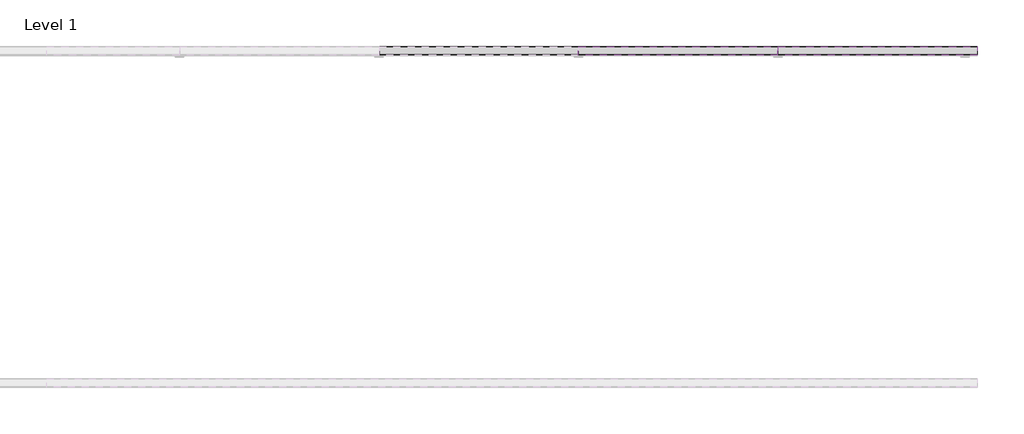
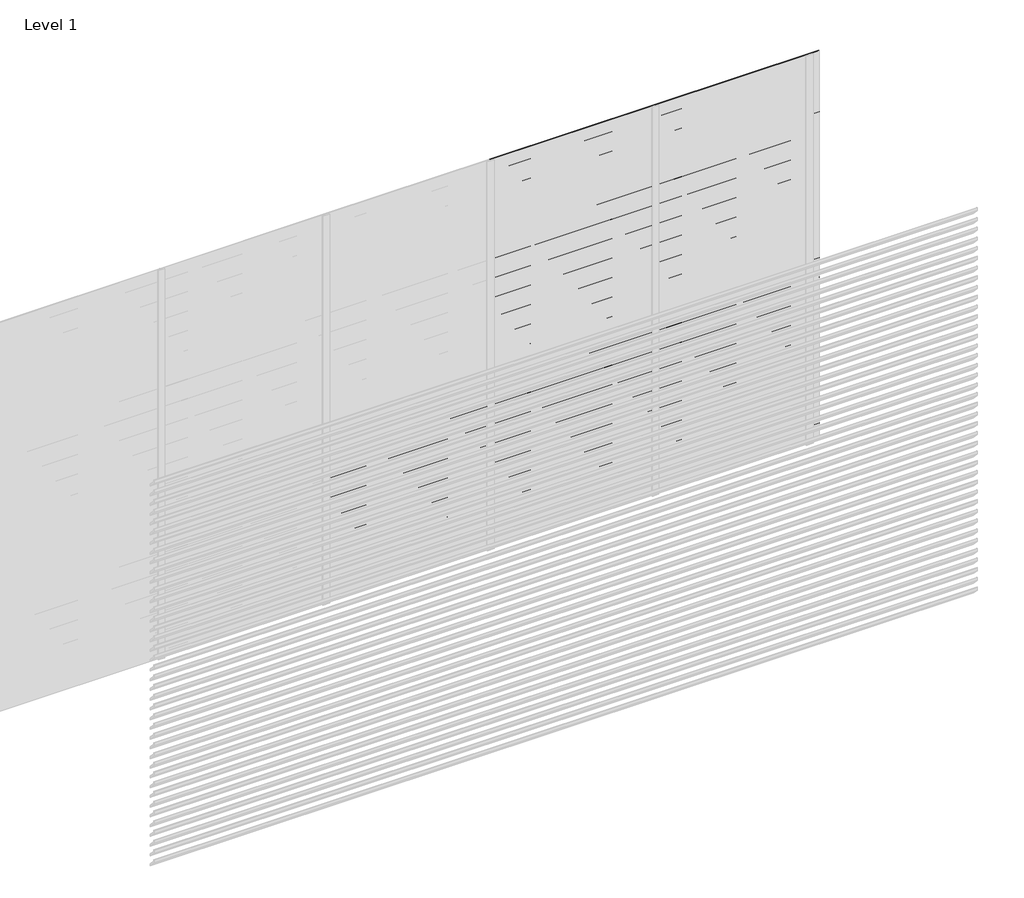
# One storey, part 11 of 11: 97 proxies.
"""IFC4 building model written with IfcOpenShell, lengths in millimetres."""

import ifcopenshell
import ifcopenshell.guid

model = None  # the IFC model being written
_history = None  # IfcOwnerHistory: only IFC2X3 demands one
_inside = {}  # id of a spatial element -> (the spatial element, [elements in it])
_under = {}  # id of a project, library or spatial element -> (it, [spatial elements below it])
_declared = {}  # id of a project -> (the project, [libraries it declares])
_typed = {}  # id of a type object -> (the type object, [elements of that type])
_made_of = {}  # id of a material, layer set ... -> (it, [elements and type objects made of it])


def new_model(schema):
    """Start an empty IFC model of exactly this schema.

    Asked for "IFC4X3", IfcOpenShell would pick the latest addendum, in which some entities
    have other attributes; the version numbers below select the first issue.
    IFC2X3 requires an IfcOwnerHistory on every rooted entity: one is made here for all.
    """
    global model, _history
    if schema == "IFC4X3":
        model = ifcopenshell.file(schema_version=(4, 3, 0, 0))
    else:
        model = ifcopenshell.file(schema=schema)
    _inside.clear()
    _under.clear()
    _declared.clear()
    _typed.clear()
    _made_of.clear()
    _history = None
    if model.schema == "IFC2X3":
        org = make("IfcOrganization", Name="unknown")
        user = make(
            "IfcPersonAndOrganization",
            ThePerson=make("IfcPerson", FamilyName="unknown"),
            TheOrganization=org,
        )
        app = make(
            "IfcApplication",
            ApplicationDeveloper=org,
            Version="unknown",
            ApplicationFullName="unknown",
            ApplicationIdentifier="unknown",
        )
        _history = make(
            "IfcOwnerHistory",
            OwningUser=user,
            OwningApplication=app,
            ChangeAction="ADDED",
            CreationDate=0,
        )
    return model


def make(cls, **values):
    """One entity of the class cls with the attributes given. An attribute that is None is left unset."""
    return model.create_entity(
        cls, **{name: value for name, value in values.items() if value is not None}
    )


def rooted(cls, **values):
    """An entity with a GlobalId (a new one), such as an element, a storey or a relation."""
    return make(cls, GlobalId=ifcopenshell.guid.new(), OwnerHistory=_history, **values)


def si_unit(unit_type, name, prefix=None):
    """IfcSIUnit, for example si_unit("LENGTHUNIT", "METRE", prefix="MILLI")."""
    return make("IfcSIUnit", UnitType=unit_type, Prefix=prefix, Name=name)


def assignment(units):
    """IfcUnitAssignment: the units of a project."""
    return None if units is None else make("IfcUnitAssignment", Units=units)


def point(xyz):
    """IfcCartesianPoint."""
    return None if xyz is None else make("IfcCartesianPoint", Coordinates=xyz)


def direction(xyz):
    """IfcDirection."""
    return None if xyz is None else make("IfcDirection", DirectionRatios=xyz)


def frame(location, z_axis=None, x_axis=None):
    """IfcAxis2Placement3D, a coordinate frame: its origin and axes. An axis left out is left unset."""
    return make(
        "IfcAxis2Placement3D",
        Location=point(location),
        Axis=direction(z_axis),
        RefDirection=direction(x_axis),
    )


def origin():
    """The frame at (0, 0, 0) with its axes left unset."""
    return frame((0.0, 0.0, 0.0))


def place(relative_to, where):
    """IfcLocalPlacement: puts the frame where relative to a parent placement (None: the world)."""
    return make(
        "IfcLocalPlacement", PlacementRelTo=relative_to, RelativePlacement=where
    )


def context(
    kind, dimensions, precision=None, world=None, true_north=None, identifier=None
):
    """IfcGeometricRepresentationContext, for example the 3D "Model" context."""
    return make(
        "IfcGeometricRepresentationContext",
        ContextIdentifier=identifier,
        ContextType=kind,
        CoordinateSpaceDimension=dimensions,
        Precision=precision,
        WorldCoordinateSystem=world,
        TrueNorth=true_north,
    )


def project(units=None, contexts=None):
    """IfcProject with its units and contexts."""
    return rooted(
        "IfcProject",
        Name="project",
        RepresentationContexts=contexts,
        UnitsInContext=assignment(units),
    )


def spatial(cls, under=None, at=None, **own):
    """A site, building, storey or space (cls), placed at a placement, below another one or the project."""
    s = rooted(cls, ObjectPlacement=at, **own)
    if under is not None:
        _under.setdefault(under.id(), (under, []))[1].append(s)
    return s


def polyline(points):
    """IfcPolyline through the points."""
    return make("IfcPolyline", Points=[point(p) for p in points])


def outline(outer, holes=None, kind="AREA"):
    """IfcArbitraryClosedProfileDef: a profile drawn as a closed curve; with holes, ...WithVoids."""
    if holes is None:
        return make("IfcArbitraryClosedProfileDef", ProfileType=kind, OuterCurve=outer)
    return make(
        "IfcArbitraryProfileDefWithVoids",
        ProfileType=kind,
        OuterCurve=outer,
        InnerCurves=holes,
    )


def extrude(swept, where, along, depth):
    """IfcExtrudedAreaSolid: the profile swept, set in the frame where, extruded along a direction by depth."""
    return make(
        "IfcExtrudedAreaSolid",
        SweptArea=swept,
        Position=where,
        ExtrudedDirection=direction(along),
        Depth=depth,
    )


def shape(context_of_items, identifier, shape_type, items):
    """IfcShapeRepresentation: the items that make up one representation, for example the "Body"."""
    return make(
        "IfcShapeRepresentation",
        ContextOfItems=context_of_items,
        RepresentationIdentifier=identifier,
        RepresentationType=shape_type,
        Items=items,
    )


def made_of(thing, what):
    """Note that an element or type object is made of a material, layer set ...; save() writes the relation."""
    if what is not None:
        _made_of.setdefault(what.id(), (what, []))[1].append(thing)
    return thing


def element(
    cls,
    number,
    at=None,
    inside=None,
    cuts=None,
    type_object=None,
    material=None,
    context=None,
    identifier="Body",
    shape_type=None,
    held_by="IfcProductDefinitionShape",
    body=None,
    shapes=None,
    **own,
):
    """One element of the class cls, such as IfcWall. Its Tag is "e" and its number.

    at: its placement. inside: the storey or other place that contains it. cuts: it is an
    opening in that element (IfcRelVoidsElement). A single representation is given by context,
    identifier, shape_type and body (its items); several are given by shapes. held_by: the class
    of the entity that holds the representations. save() writes the other relations.
    """
    e = rooted(cls, Tag="e%d" % number, ObjectPlacement=at, **own)
    if body is not None:
        shapes = [shape(context, identifier, shape_type, body)]
    if shapes is not None:
        e.Representation = make(held_by, Representations=shapes)
    if inside is not None:
        _inside.setdefault(inside.id(), (inside, []))[1].append(e)
    if cuts is not None:
        rooted(
            "IfcRelVoidsElement", RelatingBuildingElement=cuts, RelatedOpeningElement=e
        )
    if type_object is not None:
        _typed.setdefault(type_object.id(), (type_object, []))[1].append(e)
    return made_of(e, material)


def aggregate(whole, parts):
    """IfcRelAggregates: a whole, such as a stair, and the parts it consists of."""
    return rooted("IfcRelAggregates", RelatingObject=whole, RelatedObjects=parts)


def save(model, path):
    """Write the relations noted so far, then the file.

    IfcRelAggregates (storeys below a building ...), IfcRelContainedInSpatialStructure (elements
    in a storey), IfcRelDefinesByType, IfcRelAssociatesMaterial and IfcRelDeclares: one each for
    every whole, place, type object, material and project.
    """
    for whole, parts in _under.values():
        aggregate(whole, parts)
    for where, things in _inside.values():
        rooted(
            "IfcRelContainedInSpatialStructure",
            RelatedElements=things,
            RelatingStructure=where,
        )
    for kind, things in _typed.values():
        rooted("IfcRelDefinesByType", RelatedObjects=things, RelatingType=kind)
    for what, things in _made_of.values():
        rooted("IfcRelAssociatesMaterial", RelatedObjects=things, RelatingMaterial=what)
    for by, libraries in _declared.values():
        rooted("IfcRelDeclares", RelatingContext=by, RelatedDefinitions=libraries)
    model.write(path)


model = new_model("IFC4")

# Units and contexts
model_context = context("Model", 3, world=origin())
ifc_project = project(units=[si_unit("LENGTHUNIT", "METRE", prefix="MILLI")], contexts=[model_context])

# Site, building, storey
site = spatial("IfcSite", under=ifc_project)
building = spatial("IfcBuilding", under=site)
storey = spatial("IfcBuildingStorey", under=building, Name="Level 1", Elevation=0.0)

# Proxies
placement = place(None, origin())
element("IfcBuildingElementProxy", 1, Name="Wall Sweeps", at=placement, inside=storey, context=model_context, shape_type="SweptSolid", body=[
    extrude(outline(polyline([(5.0, 1275.0), (5.0, 1265.7409854), (54.0, 1215.0), (54.0, 1199.0), (3.0, 1251.812046), (3.0, 1275.0), (5.0, 1275.0)])), frame((2400.0, 0.0, 0.0), z_axis=(1.0, 0.0, 0.0), x_axis=(0.0, 1.0, 0.0)), (0.0, 0.0, 1.0), 1200.0),
])
element("IfcBuildingElementProxy", 2, Name="Wall Sweeps", at=placement, inside=storey, context=model_context, shape_type="SweptSolid", body=[
    extrude(outline(polyline([(5.0, 1200.0), (5.0, 1190.7409854), (54.0, 1140.0), (54.0, 1124.0), (3.0, 1176.812046), (3.0, 1200.0), (5.0, 1200.0)])), frame((2400.0, 0.0, 0.0), z_axis=(1.0, 0.0, 0.0), x_axis=(0.0, 1.0, 0.0)), (0.0, 0.0, 1.0), 1200.0),
])
element("IfcBuildingElementProxy", 3, Name="Wall Sweeps", at=placement, inside=storey, context=model_context, shape_type="SweptSolid", body=[
    extrude(outline(polyline([(5.0, 1125.0), (5.0, 1115.7409854), (54.0, 1065.0), (54.0, 1049.0), (3.0, 1101.812046), (3.0, 1125.0), (5.0, 1125.0)])), frame((2400.0, 0.0, 0.0), z_axis=(1.0, 0.0, 0.0), x_axis=(0.0, 1.0, 0.0)), (0.0, 0.0, 1.0), 1200.0),
])
element("IfcBuildingElementProxy", 4, Name="Wall Sweeps", at=placement, inside=storey, context=model_context, shape_type="SweptSolid", body=[
    extrude(outline(polyline([(5.0, 1050.0), (5.0, 1040.7409854), (54.0, 990.0), (54.0, 974.0), (3.0, 1026.812046), (3.0, 1050.0), (5.0, 1050.0)])), frame((2400.0, 0.0, 0.0), z_axis=(1.0, 0.0, 0.0), x_axis=(0.0, 1.0, 0.0)), (0.0, 0.0, 1.0), 1200.0),
])
element("IfcBuildingElementProxy", 5, Name="Wall Sweeps", at=placement, inside=storey, context=model_context, shape_type="SweptSolid", body=[
    extrude(outline(polyline([(5.0, 975.0), (5.0, 965.7409854), (54.0, 915.0), (54.0, 899.0), (3.0, 951.812046), (3.0, 975.0), (5.0, 975.0)])), frame((2400.0, 0.0, 0.0), z_axis=(1.0, 0.0, 0.0), x_axis=(0.0, 1.0, 0.0)), (0.0, 0.0, 1.0), 1200.0),
])
element("IfcBuildingElementProxy", 6, Name="Wall Sweeps", at=placement, inside=storey, context=model_context, shape_type="SweptSolid", body=[
    extrude(outline(polyline([(5.0, 900.0), (5.0, 890.7409854), (54.0, 840.0), (54.0, 824.0), (3.0, 876.812046), (3.0, 900.0), (5.0, 900.0)])), frame((2400.0, 0.0, 0.0), z_axis=(1.0, 0.0, 0.0), x_axis=(0.0, 1.0, 0.0)), (0.0, 0.0, 1.0), 1200.0),
])
element("IfcBuildingElementProxy", 7, Name="Wall Sweeps", at=placement, inside=storey, context=model_context, shape_type="SweptSolid", body=[
    extrude(outline(polyline([(5.0, 825.0), (5.0, 815.7409854), (54.0, 765.0), (54.0, 749.0), (3.0, 801.812046), (3.0, 825.0), (5.0, 825.0)])), frame((2400.0, 0.0, 0.0), z_axis=(1.0, 0.0, 0.0), x_axis=(0.0, 1.0, 0.0)), (0.0, 0.0, 1.0), 1200.0),
])
element("IfcBuildingElementProxy", 8, Name="Wall Sweeps", at=placement, inside=storey, context=model_context, shape_type="SweptSolid", body=[
    extrude(outline(polyline([(5.0, 750.0), (5.0, 740.7409854), (54.0, 690.0), (54.0, 674.0), (3.0, 726.812046), (3.0, 750.0), (5.0, 750.0)])), frame((2400.0, 0.0, 0.0), z_axis=(1.0, 0.0, 0.0), x_axis=(0.0, 1.0, 0.0)), (0.0, 0.0, 1.0), 1200.0),
])
element("IfcBuildingElementProxy", 9, Name="Wall Sweeps", at=placement, inside=storey, context=model_context, shape_type="SweptSolid", body=[
    extrude(outline(polyline([(5.0, 675.0), (5.0, 665.7409854), (54.0, 615.0), (54.0, 599.0), (3.0, 651.812046), (3.0, 675.0), (5.0, 675.0)])), frame((2400.0, 0.0, 0.0), z_axis=(1.0, 0.0, 0.0), x_axis=(0.0, 1.0, 0.0)), (0.0, 0.0, 1.0), 1200.0),
])
element("IfcBuildingElementProxy", 10, Name="Wall Sweeps", at=placement, inside=storey, context=model_context, shape_type="SweptSolid", body=[
    extrude(outline(polyline([(5.0, 600.0), (5.0, 590.7409854), (54.0, 540.0), (54.0, 524.0), (3.0, 576.812046), (3.0, 600.0), (5.0, 600.0)])), frame((2400.0, 0.0, 0.0), z_axis=(1.0, 0.0, 0.0), x_axis=(0.0, 1.0, 0.0)), (0.0, 0.0, 1.0), 1200.0),
])
element("IfcBuildingElementProxy", 11, Name="Wall Sweeps", at=placement, inside=storey, context=model_context, shape_type="SweptSolid", body=[
    extrude(outline(polyline([(5.0, 525.0), (5.0, 515.7409854), (54.0, 465.0), (54.0, 449.0), (3.0, 501.812046), (3.0, 525.0), (5.0, 525.0)])), frame((2400.0, 0.0, 0.0), z_axis=(1.0, 0.0, 0.0), x_axis=(0.0, 1.0, 0.0)), (0.0, 0.0, 1.0), 1200.0),
])
element("IfcBuildingElementProxy", 12, Name="Wall Sweeps", at=placement, inside=storey, context=model_context, shape_type="SweptSolid", body=[
    extrude(outline(polyline([(5.0, 450.0), (5.0, 440.7409854), (54.0, 390.0), (54.0, 374.0), (3.0, 426.812046), (3.0, 450.0), (5.0, 450.0)])), frame((2400.0, 0.0, 0.0), z_axis=(1.0, 0.0, 0.0), x_axis=(0.0, 1.0, 0.0)), (0.0, 0.0, 1.0), 1200.0),
])
element("IfcBuildingElementProxy", 13, Name="Wall Sweeps", at=placement, inside=storey, context=model_context, shape_type="SweptSolid", body=[
    extrude(outline(polyline([(5.0, 375.0), (5.0, 365.7409854), (54.0, 315.0), (54.0, 299.0), (3.0, 351.812046), (3.0, 375.0), (5.0, 375.0)])), frame((2400.0, 0.0, 0.0), z_axis=(1.0, 0.0, 0.0), x_axis=(0.0, 1.0, 0.0)), (0.0, 0.0, 1.0), 1200.0),
])
element("IfcBuildingElementProxy", 14, Name="Wall Sweeps", at=placement, inside=storey, context=model_context, shape_type="SweptSolid", body=[
    extrude(outline(polyline([(5.0, 300.0), (5.0, 290.7409854), (54.0, 240.0), (54.0, 224.0), (3.0, 276.812046), (3.0, 300.0), (5.0, 300.0)])), frame((2400.0, 0.0, 0.0), z_axis=(1.0, 0.0, 0.0), x_axis=(0.0, 1.0, 0.0)), (0.0, 0.0, 1.0), 1200.0),
])
element("IfcBuildingElementProxy", 15, Name="Wall Sweeps", at=placement, inside=storey, context=model_context, shape_type="SweptSolid", body=[
    extrude(outline(polyline([(5.0, 225.0), (5.0, 215.7409854), (54.0, 165.0), (54.0, 149.0), (3.0, 201.812046), (3.0, 225.0), (5.0, 225.0)])), frame((2400.0, 0.0, 0.0), z_axis=(1.0, 0.0, 0.0), x_axis=(0.0, 1.0, 0.0)), (0.0, 0.0, 1.0), 1200.0),
])
element("IfcBuildingElementProxy", 16, Name="Wall Sweeps", at=placement, inside=storey, context=model_context, shape_type="SweptSolid", body=[
    extrude(outline(polyline([(5.0, 150.0), (5.0, 140.7409854), (54.0, 90.0), (54.0, 74.0), (3.0, 126.812046), (3.0, 150.0), (5.0, 150.0)])), frame((2400.0, 0.0, 0.0), z_axis=(1.0, 0.0, 0.0), x_axis=(0.0, 1.0, 0.0)), (0.0, 0.0, 1.0), 1200.0),
])
element("IfcBuildingElementProxy", 17, Name="Wall Sweeps", at=placement, inside=storey, context=model_context, shape_type="SweptSolid", body=[
    extrude(outline(polyline([(5.0, 75.0), (5.0, 65.7409854), (54.0, 15.0), (54.0, -1.0), (3.0, 51.812046), (3.0, 75.0), (5.0, 75.0)])), frame((2400.0, 0.0, 0.0), z_axis=(1.0, 0.0, 0.0), x_axis=(0.0, 1.0, 0.0)), (0.0, 0.0, 1.0), 1200.0),
])
element("IfcBuildingElementProxy", 18, Name="Wall Sweeps", at=placement, inside=storey, context=model_context, shape_type="SweptSolid", body=[
    extrude(outline(polyline([(5.0, 3000.0), (5.0, 2990.7409854), (54.0, 2940.0), (54.0, 2924.0), (3.0, 2976.812046), (3.0, 3000.0), (5.0, 3000.0)])), frame((3600.0, 0.0, 0.0), z_axis=(1.0, 0.0, 0.0), x_axis=(0.0, 1.0, 0.0)), (0.0, 0.0, 1.0), 1200.0),
])
element("IfcBuildingElementProxy", 19, Name="Wall Sweeps", at=placement, inside=storey, context=model_context, shape_type="SweptSolid", body=[
    extrude(outline(polyline([(5.0, 2925.0), (5.0, 2915.7409854), (54.0, 2865.0), (54.0, 2849.0), (3.0, 2901.812046), (3.0, 2925.0), (5.0, 2925.0)])), frame((3600.0, 0.0, 0.0), z_axis=(1.0, 0.0, 0.0), x_axis=(0.0, 1.0, 0.0)), (0.0, 0.0, 1.0), 1200.0),
])
element("IfcBuildingElementProxy", 20, Name="Wall Sweeps", at=placement, inside=storey, context=model_context, shape_type="SweptSolid", body=[
    extrude(outline(polyline([(5.0, 2850.0), (5.0, 2840.7409854), (54.0, 2790.0), (54.0, 2774.0), (3.0, 2826.812046), (3.0, 2850.0), (5.0, 2850.0)])), frame((3600.0, 0.0, 0.0), z_axis=(1.0, 0.0, 0.0), x_axis=(0.0, 1.0, 0.0)), (0.0, 0.0, 1.0), 1200.0),
])
element("IfcBuildingElementProxy", 21, Name="Wall Sweeps", at=placement, inside=storey, context=model_context, shape_type="SweptSolid", body=[
    extrude(outline(polyline([(5.0, 2775.0), (5.0, 2765.7409854), (54.0, 2715.0), (54.0, 2699.0), (3.0, 2751.812046), (3.0, 2775.0), (5.0, 2775.0)])), frame((3600.0, 0.0, 0.0), z_axis=(1.0, 0.0, 0.0), x_axis=(0.0, 1.0, 0.0)), (0.0, 0.0, 1.0), 1200.0),
])
element("IfcBuildingElementProxy", 22, Name="Wall Sweeps", at=placement, inside=storey, context=model_context, shape_type="SweptSolid", body=[
    extrude(outline(polyline([(5.0, 2700.0), (5.0, 2690.7409854), (54.0, 2640.0), (54.0, 2624.0), (3.0, 2676.812046), (3.0, 2700.0), (5.0, 2700.0)])), frame((3600.0, 0.0, 0.0), z_axis=(1.0, 0.0, 0.0), x_axis=(0.0, 1.0, 0.0)), (0.0, 0.0, 1.0), 1200.0),
])
element("IfcBuildingElementProxy", 23, Name="Wall Sweeps", at=placement, inside=storey, context=model_context, shape_type="SweptSolid", body=[
    extrude(outline(polyline([(5.0, 2625.0), (5.0, 2615.7409854), (54.0, 2565.0), (54.0, 2549.0), (3.0, 2601.812046), (3.0, 2625.0), (5.0, 2625.0)])), frame((3600.0, 0.0, 0.0), z_axis=(1.0, 0.0, 0.0), x_axis=(0.0, 1.0, 0.0)), (0.0, 0.0, 1.0), 1200.0),
])
element("IfcBuildingElementProxy", 24, Name="Wall Sweeps", at=placement, inside=storey, context=model_context, shape_type="SweptSolid", body=[
    extrude(outline(polyline([(5.0, 2550.0), (5.0, 2540.7409854), (54.0, 2490.0), (54.0, 2474.0), (3.0, 2526.812046), (3.0, 2550.0), (5.0, 2550.0)])), frame((3600.0, 0.0, 0.0), z_axis=(1.0, 0.0, 0.0), x_axis=(0.0, 1.0, 0.0)), (0.0, 0.0, 1.0), 1200.0),
])
element("IfcBuildingElementProxy", 25, Name="Wall Sweeps", at=placement, inside=storey, context=model_context, shape_type="SweptSolid", body=[
    extrude(outline(polyline([(5.0, 2475.0), (5.0, 2465.7409854), (54.0, 2415.0), (54.0, 2399.0), (3.0, 2451.812046), (3.0, 2475.0), (5.0, 2475.0)])), frame((3600.0, 0.0, 0.0), z_axis=(1.0, 0.0, 0.0), x_axis=(0.0, 1.0, 0.0)), (0.0, 0.0, 1.0), 1200.0),
])
element("IfcBuildingElementProxy", 26, Name="Wall Sweeps", at=placement, inside=storey, context=model_context, shape_type="SweptSolid", body=[
    extrude(outline(polyline([(5.0, 2400.0), (5.0, 2390.7409854), (54.0, 2340.0), (54.0, 2324.0), (3.0, 2376.812046), (3.0, 2400.0), (5.0, 2400.0)])), frame((3600.0, 0.0, 0.0), z_axis=(1.0, 0.0, 0.0), x_axis=(0.0, 1.0, 0.0)), (0.0, 0.0, 1.0), 1200.0),
])
element("IfcBuildingElementProxy", 27, Name="Wall Sweeps", at=placement, inside=storey, context=model_context, shape_type="SweptSolid", body=[
    extrude(outline(polyline([(5.0, 2325.0), (5.0, 2315.7409854), (54.0, 2265.0), (54.0, 2249.0), (3.0, 2301.812046), (3.0, 2325.0), (5.0, 2325.0)])), frame((3600.0, 0.0, 0.0), z_axis=(1.0, 0.0, 0.0), x_axis=(0.0, 1.0, 0.0)), (0.0, 0.0, 1.0), 1200.0),
])
element("IfcBuildingElementProxy", 28, Name="Wall Sweeps", at=placement, inside=storey, context=model_context, shape_type="SweptSolid", body=[
    extrude(outline(polyline([(5.0, 2250.0), (5.0, 2240.7409854), (54.0, 2190.0), (54.0, 2174.0), (3.0, 2226.812046), (3.0, 2250.0), (5.0, 2250.0)])), frame((3600.0, 0.0, 0.0), z_axis=(1.0, 0.0, 0.0), x_axis=(0.0, 1.0, 0.0)), (0.0, 0.0, 1.0), 1200.0),
])
element("IfcBuildingElementProxy", 29, Name="Wall Sweeps", at=placement, inside=storey, context=model_context, shape_type="SweptSolid", body=[
    extrude(outline(polyline([(5.0, 2175.0), (5.0, 2165.7409854), (54.0, 2115.0), (54.0, 2099.0), (3.0, 2151.812046), (3.0, 2175.0), (5.0, 2175.0)])), frame((3600.0, 0.0, 0.0), z_axis=(1.0, 0.0, 0.0), x_axis=(0.0, 1.0, 0.0)), (0.0, 0.0, 1.0), 1200.0),
])
element("IfcBuildingElementProxy", 30, Name="Wall Sweeps", at=placement, inside=storey, context=model_context, shape_type="SweptSolid", body=[
    extrude(outline(polyline([(5.0, 2100.0), (5.0, 2090.7409854), (54.0, 2040.0), (54.0, 2024.0), (3.0, 2076.812046), (3.0, 2100.0), (5.0, 2100.0)])), frame((3600.0, 0.0, 0.0), z_axis=(1.0, 0.0, 0.0), x_axis=(0.0, 1.0, 0.0)), (0.0, 0.0, 1.0), 1200.0),
])
element("IfcBuildingElementProxy", 31, Name="Wall Sweeps", at=placement, inside=storey, context=model_context, shape_type="SweptSolid", body=[
    extrude(outline(polyline([(5.0, 2025.0), (5.0, 2015.7409854), (54.0, 1965.0), (54.0, 1949.0), (3.0, 2001.812046), (3.0, 2025.0), (5.0, 2025.0)])), frame((3600.0, 0.0, 0.0), z_axis=(1.0, 0.0, 0.0), x_axis=(0.0, 1.0, 0.0)), (0.0, 0.0, 1.0), 1200.0),
])
element("IfcBuildingElementProxy", 32, Name="Wall Sweeps", at=placement, inside=storey, context=model_context, shape_type="SweptSolid", body=[
    extrude(outline(polyline([(5.0, 1950.0), (5.0, 1940.7409854), (54.0, 1890.0), (54.0, 1874.0), (3.0, 1926.812046), (3.0, 1950.0), (5.0, 1950.0)])), frame((3600.0, 0.0, 0.0), z_axis=(1.0, 0.0, 0.0), x_axis=(0.0, 1.0, 0.0)), (0.0, 0.0, 1.0), 1200.0),
])
element("IfcBuildingElementProxy", 33, Name="Wall Sweeps", at=placement, inside=storey, context=model_context, shape_type="SweptSolid", body=[
    extrude(outline(polyline([(5.0, 1875.0), (5.0, 1865.7409854), (54.0, 1815.0), (54.0, 1799.0), (3.0, 1851.812046), (3.0, 1875.0), (5.0, 1875.0)])), frame((3600.0, 0.0, 0.0), z_axis=(1.0, 0.0, 0.0), x_axis=(0.0, 1.0, 0.0)), (0.0, 0.0, 1.0), 1200.0),
])
element("IfcBuildingElementProxy", 34, Name="Wall Sweeps", at=placement, inside=storey, context=model_context, shape_type="SweptSolid", body=[
    extrude(outline(polyline([(5.0, 1800.0), (5.0, 1790.7409854), (54.0, 1740.0), (54.0, 1724.0), (3.0, 1776.812046), (3.0, 1800.0), (5.0, 1800.0)])), frame((3600.0, 0.0, 0.0), z_axis=(1.0, 0.0, 0.0), x_axis=(0.0, 1.0, 0.0)), (0.0, 0.0, 1.0), 1200.0),
])
element("IfcBuildingElementProxy", 35, Name="Wall Sweeps", at=placement, inside=storey, context=model_context, shape_type="SweptSolid", body=[
    extrude(outline(polyline([(5.0, 1725.0), (5.0, 1715.7409854), (54.0, 1665.0), (54.0, 1649.0), (3.0, 1701.812046), (3.0, 1725.0), (5.0, 1725.0)])), frame((3600.0, 0.0, 0.0), z_axis=(1.0, 0.0, 0.0), x_axis=(0.0, 1.0, 0.0)), (0.0, 0.0, 1.0), 1200.0),
])
element("IfcBuildingElementProxy", 36, Name="Wall Sweeps", at=placement, inside=storey, context=model_context, shape_type="SweptSolid", body=[
    extrude(outline(polyline([(5.0, 1650.0), (5.0, 1640.7409854), (54.0, 1590.0), (54.0, 1574.0), (3.0, 1626.812046), (3.0, 1650.0), (5.0, 1650.0)])), frame((3600.0, 0.0, 0.0), z_axis=(1.0, 0.0, 0.0), x_axis=(0.0, 1.0, 0.0)), (0.0, 0.0, 1.0), 1200.0),
])
element("IfcBuildingElementProxy", 37, Name="Wall Sweeps", at=placement, inside=storey, context=model_context, shape_type="SweptSolid", body=[
    extrude(outline(polyline([(5.0, 1575.0), (5.0, 1565.7409854), (54.0, 1515.0), (54.0, 1499.0), (3.0, 1551.812046), (3.0, 1575.0), (5.0, 1575.0)])), frame((3600.0, 0.0, 0.0), z_axis=(1.0, 0.0, 0.0), x_axis=(0.0, 1.0, 0.0)), (0.0, 0.0, 1.0), 1200.0),
])
element("IfcBuildingElementProxy", 38, Name="Wall Sweeps", at=placement, inside=storey, context=model_context, shape_type="SweptSolid", body=[
    extrude(outline(polyline([(5.0, 1500.0), (5.0, 1490.7409854), (54.0, 1440.0), (54.0, 1424.0), (3.0, 1476.812046), (3.0, 1500.0), (5.0, 1500.0)])), frame((3600.0, 0.0, 0.0), z_axis=(1.0, 0.0, 0.0), x_axis=(0.0, 1.0, 0.0)), (0.0, 0.0, 1.0), 1200.0),
])
element("IfcBuildingElementProxy", 39, Name="Wall Sweeps", at=placement, inside=storey, context=model_context, shape_type="SweptSolid", body=[
    extrude(outline(polyline([(5.0, 1425.0), (5.0, 1415.7409854), (54.0, 1365.0), (54.0, 1349.0), (3.0, 1401.812046), (3.0, 1425.0), (5.0, 1425.0)])), frame((3600.0, 0.0, 0.0), z_axis=(1.0, 0.0, 0.0), x_axis=(0.0, 1.0, 0.0)), (0.0, 0.0, 1.0), 1200.0),
])
element("IfcBuildingElementProxy", 40, Name="Wall Sweeps", at=placement, inside=storey, context=model_context, shape_type="SweptSolid", body=[
    extrude(outline(polyline([(5.0, 1350.0), (5.0, 1340.7409854), (54.0, 1290.0), (54.0, 1274.0), (3.0, 1326.812046), (3.0, 1350.0), (5.0, 1350.0)])), frame((3600.0, 0.0, 0.0), z_axis=(1.0, 0.0, 0.0), x_axis=(0.0, 1.0, 0.0)), (0.0, 0.0, 1.0), 1200.0),
])
element("IfcBuildingElementProxy", 41, Name="Wall Sweeps", at=placement, inside=storey, context=model_context, shape_type="SweptSolid", body=[
    extrude(outline(polyline([(5.0, 1275.0), (5.0, 1265.7409854), (54.0, 1215.0), (54.0, 1199.0), (3.0, 1251.812046), (3.0, 1275.0), (5.0, 1275.0)])), frame((3600.0, 0.0, 0.0), z_axis=(1.0, 0.0, 0.0), x_axis=(0.0, 1.0, 0.0)), (0.0, 0.0, 1.0), 1200.0),
])
element("IfcBuildingElementProxy", 42, Name="Wall Sweeps", at=placement, inside=storey, context=model_context, shape_type="SweptSolid", body=[
    extrude(outline(polyline([(5.0, 1200.0), (5.0, 1190.7409854), (54.0, 1140.0), (54.0, 1124.0), (3.0, 1176.812046), (3.0, 1200.0), (5.0, 1200.0)])), frame((3600.0, 0.0, 0.0), z_axis=(1.0, 0.0, 0.0), x_axis=(0.0, 1.0, 0.0)), (0.0, 0.0, 1.0), 1200.0),
])
element("IfcBuildingElementProxy", 43, Name="Wall Sweeps", at=placement, inside=storey, context=model_context, shape_type="SweptSolid", body=[
    extrude(outline(polyline([(5.0, 1125.0), (5.0, 1115.7409854), (54.0, 1065.0), (54.0, 1049.0), (3.0, 1101.812046), (3.0, 1125.0), (5.0, 1125.0)])), frame((3600.0, 0.0, 0.0), z_axis=(1.0, 0.0, 0.0), x_axis=(0.0, 1.0, 0.0)), (0.0, 0.0, 1.0), 1200.0),
])
element("IfcBuildingElementProxy", 44, Name="Wall Sweeps", at=placement, inside=storey, context=model_context, shape_type="SweptSolid", body=[
    extrude(outline(polyline([(5.0, 1050.0), (5.0, 1040.7409854), (54.0, 990.0), (54.0, 974.0), (3.0, 1026.812046), (3.0, 1050.0), (5.0, 1050.0)])), frame((3600.0, 0.0, 0.0), z_axis=(1.0, 0.0, 0.0), x_axis=(0.0, 1.0, 0.0)), (0.0, 0.0, 1.0), 1200.0),
])
element("IfcBuildingElementProxy", 45, Name="Wall Sweeps", at=placement, inside=storey, context=model_context, shape_type="SweptSolid", body=[
    extrude(outline(polyline([(5.0, 975.0), (5.0, 965.7409854), (54.0, 915.0), (54.0, 899.0), (3.0, 951.812046), (3.0, 975.0), (5.0, 975.0)])), frame((3600.0, 0.0, 0.0), z_axis=(1.0, 0.0, 0.0), x_axis=(0.0, 1.0, 0.0)), (0.0, 0.0, 1.0), 1200.0),
])
element("IfcBuildingElementProxy", 46, Name="Wall Sweeps", at=placement, inside=storey, context=model_context, shape_type="SweptSolid", body=[
    extrude(outline(polyline([(5.0, 900.0), (5.0, 890.7409854), (54.0, 840.0), (54.0, 824.0), (3.0, 876.812046), (3.0, 900.0), (5.0, 900.0)])), frame((3600.0, 0.0, 0.0), z_axis=(1.0, 0.0, 0.0), x_axis=(0.0, 1.0, 0.0)), (0.0, 0.0, 1.0), 1200.0),
])
element("IfcBuildingElementProxy", 47, Name="Wall Sweeps", at=placement, inside=storey, context=model_context, shape_type="SweptSolid", body=[
    extrude(outline(polyline([(5.0, 825.0), (5.0, 815.7409854), (54.0, 765.0), (54.0, 749.0), (3.0, 801.812046), (3.0, 825.0), (5.0, 825.0)])), frame((3600.0, 0.0, 0.0), z_axis=(1.0, 0.0, 0.0), x_axis=(0.0, 1.0, 0.0)), (0.0, 0.0, 1.0), 1200.0),
])
element("IfcBuildingElementProxy", 48, Name="Wall Sweeps", at=placement, inside=storey, context=model_context, shape_type="SweptSolid", body=[
    extrude(outline(polyline([(5.0, 750.0), (5.0, 740.7409854), (54.0, 690.0), (54.0, 674.0), (3.0, 726.812046), (3.0, 750.0), (5.0, 750.0)])), frame((3600.0, 0.0, 0.0), z_axis=(1.0, 0.0, 0.0), x_axis=(0.0, 1.0, 0.0)), (0.0, 0.0, 1.0), 1200.0),
])
element("IfcBuildingElementProxy", 49, Name="Wall Sweeps", at=placement, inside=storey, context=model_context, shape_type="SweptSolid", body=[
    extrude(outline(polyline([(5.0, 675.0), (5.0, 665.7409854), (54.0, 615.0), (54.0, 599.0), (3.0, 651.812046), (3.0, 675.0), (5.0, 675.0)])), frame((3600.0, 0.0, 0.0), z_axis=(1.0, 0.0, 0.0), x_axis=(0.0, 1.0, 0.0)), (0.0, 0.0, 1.0), 1200.0),
])
element("IfcBuildingElementProxy", 50, Name="Wall Sweeps", at=placement, inside=storey, context=model_context, shape_type="SweptSolid", body=[
    extrude(outline(polyline([(5.0, 600.0), (5.0, 590.7409854), (54.0, 540.0), (54.0, 524.0), (3.0, 576.812046), (3.0, 600.0), (5.0, 600.0)])), frame((3600.0, 0.0, 0.0), z_axis=(1.0, 0.0, 0.0), x_axis=(0.0, 1.0, 0.0)), (0.0, 0.0, 1.0), 1200.0),
])
element("IfcBuildingElementProxy", 51, Name="Wall Sweeps", at=placement, inside=storey, context=model_context, shape_type="SweptSolid", body=[
    extrude(outline(polyline([(5.0, 525.0), (5.0, 515.7409854), (54.0, 465.0), (54.0, 449.0), (3.0, 501.812046), (3.0, 525.0), (5.0, 525.0)])), frame((3600.0, 0.0, 0.0), z_axis=(1.0, 0.0, 0.0), x_axis=(0.0, 1.0, 0.0)), (0.0, 0.0, 1.0), 1200.0),
])
element("IfcBuildingElementProxy", 52, Name="Wall Sweeps", at=placement, inside=storey, context=model_context, shape_type="SweptSolid", body=[
    extrude(outline(polyline([(5.0, 450.0), (5.0, 440.7409854), (54.0, 390.0), (54.0, 374.0), (3.0, 426.812046), (3.0, 450.0), (5.0, 450.0)])), frame((3600.0, 0.0, 0.0), z_axis=(1.0, 0.0, 0.0), x_axis=(0.0, 1.0, 0.0)), (0.0, 0.0, 1.0), 1200.0),
])
element("IfcBuildingElementProxy", 53, Name="Wall Sweeps", at=placement, inside=storey, context=model_context, shape_type="SweptSolid", body=[
    extrude(outline(polyline([(5.0, 375.0), (5.0, 365.7409854), (54.0, 315.0), (54.0, 299.0), (3.0, 351.812046), (3.0, 375.0), (5.0, 375.0)])), frame((3600.0, 0.0, 0.0), z_axis=(1.0, 0.0, 0.0), x_axis=(0.0, 1.0, 0.0)), (0.0, 0.0, 1.0), 1200.0),
])
element("IfcBuildingElementProxy", 54, Name="Wall Sweeps", at=placement, inside=storey, context=model_context, shape_type="SweptSolid", body=[
    extrude(outline(polyline([(5.0, 300.0), (5.0, 290.7409854), (54.0, 240.0), (54.0, 224.0), (3.0, 276.812046), (3.0, 300.0), (5.0, 300.0)])), frame((3600.0, 0.0, 0.0), z_axis=(1.0, 0.0, 0.0), x_axis=(0.0, 1.0, 0.0)), (0.0, 0.0, 1.0), 1200.0),
])
element("IfcBuildingElementProxy", 55, Name="Wall Sweeps", at=placement, inside=storey, context=model_context, shape_type="SweptSolid", body=[
    extrude(outline(polyline([(5.0, 225.0), (5.0, 215.7409854), (54.0, 165.0), (54.0, 149.0), (3.0, 201.812046), (3.0, 225.0), (5.0, 225.0)])), frame((3600.0, 0.0, 0.0), z_axis=(1.0, 0.0, 0.0), x_axis=(0.0, 1.0, 0.0)), (0.0, 0.0, 1.0), 1200.0),
])
element("IfcBuildingElementProxy", 56, Name="Wall Sweeps", at=placement, inside=storey, context=model_context, shape_type="SweptSolid", body=[
    extrude(outline(polyline([(5.0, 150.0), (5.0, 140.7409854), (54.0, 90.0), (54.0, 74.0), (3.0, 126.812046), (3.0, 150.0), (5.0, 150.0)])), frame((3600.0, 0.0, 0.0), z_axis=(1.0, 0.0, 0.0), x_axis=(0.0, 1.0, 0.0)), (0.0, 0.0, 1.0), 1200.0),
])
element("IfcBuildingElementProxy", 57, Name="Wall Sweeps", at=placement, inside=storey, context=model_context, shape_type="SweptSolid", body=[
    extrude(outline(polyline([(5.0, 75.0), (5.0, 65.7409854), (54.0, 15.0), (54.0, -1.0), (3.0, 51.812046), (3.0, 75.0), (5.0, 75.0)])), frame((3600.0, 0.0, 0.0), z_axis=(1.0, 0.0, 0.0), x_axis=(0.0, 1.0, 0.0)), (0.0, 0.0, 1.0), 1200.0),
])
element("IfcBuildingElementProxy", 58, Name="Wall Sweeps", at=placement, inside=storey, context=model_context, shape_type="SweptSolid", body=[
    extrude(outline(polyline([(5.0, 3000.0), (5.0, 2990.7409854), (54.0, 2940.0), (54.0, 2924.0), (3.0, 2976.812046), (3.0, 3000.0), (5.0, 3000.0)])), frame((4800.0, 0.0, 0.0), z_axis=(1.0, 0.0, 0.0), x_axis=(0.0, 1.0, 0.0)), (0.0, 0.0, 1.0), 1200.0),
])
element("IfcBuildingElementProxy", 59, Name="Wall Sweeps", at=placement, inside=storey, context=model_context, shape_type="SweptSolid", body=[
    extrude(outline(polyline([(5.0, 2925.0), (5.0, 2915.7409854), (54.0, 2865.0), (54.0, 2849.0), (3.0, 2901.812046), (3.0, 2925.0), (5.0, 2925.0)])), frame((4800.0, 0.0, 0.0), z_axis=(1.0, 0.0, 0.0), x_axis=(0.0, 1.0, 0.0)), (0.0, 0.0, 1.0), 1200.0),
])
element("IfcBuildingElementProxy", 60, Name="Wall Sweeps", at=placement, inside=storey, context=model_context, shape_type="SweptSolid", body=[
    extrude(outline(polyline([(5.0, 2850.0), (5.0, 2840.7409854), (54.0, 2790.0), (54.0, 2774.0), (3.0, 2826.812046), (3.0, 2850.0), (5.0, 2850.0)])), frame((4800.0, 0.0, 0.0), z_axis=(1.0, 0.0, 0.0), x_axis=(0.0, 1.0, 0.0)), (0.0, 0.0, 1.0), 1200.0),
])
element("IfcBuildingElementProxy", 61, Name="Wall Sweeps", at=placement, inside=storey, context=model_context, shape_type="SweptSolid", body=[
    extrude(outline(polyline([(5.0, 2775.0), (5.0, 2765.7409854), (54.0, 2715.0), (54.0, 2699.0), (3.0, 2751.812046), (3.0, 2775.0), (5.0, 2775.0)])), frame((4800.0, 0.0, 0.0), z_axis=(1.0, 0.0, 0.0), x_axis=(0.0, 1.0, 0.0)), (0.0, 0.0, 1.0), 1200.0),
])
element("IfcBuildingElementProxy", 62, Name="Wall Sweeps", at=placement, inside=storey, context=model_context, shape_type="SweptSolid", body=[
    extrude(outline(polyline([(5.0, 2700.0), (5.0, 2690.7409854), (54.0, 2640.0), (54.0, 2624.0), (3.0, 2676.812046), (3.0, 2700.0), (5.0, 2700.0)])), frame((4800.0, 0.0, 0.0), z_axis=(1.0, 0.0, 0.0), x_axis=(0.0, 1.0, 0.0)), (0.0, 0.0, 1.0), 1200.0),
])
element("IfcBuildingElementProxy", 63, Name="Wall Sweeps", at=placement, inside=storey, context=model_context, shape_type="SweptSolid", body=[
    extrude(outline(polyline([(5.0, 2625.0), (5.0, 2615.7409854), (54.0, 2565.0), (54.0, 2549.0), (3.0, 2601.812046), (3.0, 2625.0), (5.0, 2625.0)])), frame((4800.0, 0.0, 0.0), z_axis=(1.0, 0.0, 0.0), x_axis=(0.0, 1.0, 0.0)), (0.0, 0.0, 1.0), 1200.0),
])
element("IfcBuildingElementProxy", 64, Name="Wall Sweeps", at=placement, inside=storey, context=model_context, shape_type="SweptSolid", body=[
    extrude(outline(polyline([(5.0, 2550.0), (5.0, 2540.7409854), (54.0, 2490.0), (54.0, 2474.0), (3.0, 2526.812046), (3.0, 2550.0), (5.0, 2550.0)])), frame((4800.0, 0.0, 0.0), z_axis=(1.0, 0.0, 0.0), x_axis=(0.0, 1.0, 0.0)), (0.0, 0.0, 1.0), 1200.0),
])
element("IfcBuildingElementProxy", 65, Name="Wall Sweeps", at=placement, inside=storey, context=model_context, shape_type="SweptSolid", body=[
    extrude(outline(polyline([(5.0, 2475.0), (5.0, 2465.7409854), (54.0, 2415.0), (54.0, 2399.0), (3.0, 2451.812046), (3.0, 2475.0), (5.0, 2475.0)])), frame((4800.0, 0.0, 0.0), z_axis=(1.0, 0.0, 0.0), x_axis=(0.0, 1.0, 0.0)), (0.0, 0.0, 1.0), 1200.0),
])
element("IfcBuildingElementProxy", 66, Name="Wall Sweeps", at=placement, inside=storey, context=model_context, shape_type="SweptSolid", body=[
    extrude(outline(polyline([(5.0, 2400.0), (5.0, 2390.7409854), (54.0, 2340.0), (54.0, 2324.0), (3.0, 2376.812046), (3.0, 2400.0), (5.0, 2400.0)])), frame((4800.0, 0.0, 0.0), z_axis=(1.0, 0.0, 0.0), x_axis=(0.0, 1.0, 0.0)), (0.0, 0.0, 1.0), 1200.0),
])
element("IfcBuildingElementProxy", 67, Name="Wall Sweeps", at=placement, inside=storey, context=model_context, shape_type="SweptSolid", body=[
    extrude(outline(polyline([(5.0, 2325.0), (5.0, 2315.7409854), (54.0, 2265.0), (54.0, 2249.0), (3.0, 2301.812046), (3.0, 2325.0), (5.0, 2325.0)])), frame((4800.0, 0.0, 0.0), z_axis=(1.0, 0.0, 0.0), x_axis=(0.0, 1.0, 0.0)), (0.0, 0.0, 1.0), 1200.0),
])
element("IfcBuildingElementProxy", 68, Name="Wall Sweeps", at=placement, inside=storey, context=model_context, shape_type="SweptSolid", body=[
    extrude(outline(polyline([(5.0, 2250.0), (5.0, 2240.7409854), (54.0, 2190.0), (54.0, 2174.0), (3.0, 2226.812046), (3.0, 2250.0), (5.0, 2250.0)])), frame((4800.0, 0.0, 0.0), z_axis=(1.0, 0.0, 0.0), x_axis=(0.0, 1.0, 0.0)), (0.0, 0.0, 1.0), 1200.0),
])
element("IfcBuildingElementProxy", 69, Name="Wall Sweeps", at=placement, inside=storey, context=model_context, shape_type="SweptSolid", body=[
    extrude(outline(polyline([(5.0, 2175.0), (5.0, 2165.7409854), (54.0, 2115.0), (54.0, 2099.0), (3.0, 2151.812046), (3.0, 2175.0), (5.0, 2175.0)])), frame((4800.0, 0.0, 0.0), z_axis=(1.0, 0.0, 0.0), x_axis=(0.0, 1.0, 0.0)), (0.0, 0.0, 1.0), 1200.0),
])
element("IfcBuildingElementProxy", 70, Name="Wall Sweeps", at=placement, inside=storey, context=model_context, shape_type="SweptSolid", body=[
    extrude(outline(polyline([(5.0, 2100.0), (5.0, 2090.7409854), (54.0, 2040.0), (54.0, 2024.0), (3.0, 2076.812046), (3.0, 2100.0), (5.0, 2100.0)])), frame((4800.0, 0.0, 0.0), z_axis=(1.0, 0.0, 0.0), x_axis=(0.0, 1.0, 0.0)), (0.0, 0.0, 1.0), 1200.0),
])
element("IfcBuildingElementProxy", 71, Name="Wall Sweeps", at=placement, inside=storey, context=model_context, shape_type="SweptSolid", body=[
    extrude(outline(polyline([(5.0, 2025.0), (5.0, 2015.7409854), (54.0, 1965.0), (54.0, 1949.0), (3.0, 2001.812046), (3.0, 2025.0), (5.0, 2025.0)])), frame((4800.0, 0.0, 0.0), z_axis=(1.0, 0.0, 0.0), x_axis=(0.0, 1.0, 0.0)), (0.0, 0.0, 1.0), 1200.0),
])
element("IfcBuildingElementProxy", 72, Name="Wall Sweeps", at=placement, inside=storey, context=model_context, shape_type="SweptSolid", body=[
    extrude(outline(polyline([(5.0, 1950.0), (5.0, 1940.7409854), (54.0, 1890.0), (54.0, 1874.0), (3.0, 1926.812046), (3.0, 1950.0), (5.0, 1950.0)])), frame((4800.0, 0.0, 0.0), z_axis=(1.0, 0.0, 0.0), x_axis=(0.0, 1.0, 0.0)), (0.0, 0.0, 1.0), 1200.0),
])
element("IfcBuildingElementProxy", 73, Name="Wall Sweeps", at=placement, inside=storey, context=model_context, shape_type="SweptSolid", body=[
    extrude(outline(polyline([(5.0, 1875.0), (5.0, 1865.7409854), (54.0, 1815.0), (54.0, 1799.0), (3.0, 1851.812046), (3.0, 1875.0), (5.0, 1875.0)])), frame((4800.0, 0.0, 0.0), z_axis=(1.0, 0.0, 0.0), x_axis=(0.0, 1.0, 0.0)), (0.0, 0.0, 1.0), 1200.0),
])
element("IfcBuildingElementProxy", 74, Name="Wall Sweeps", at=placement, inside=storey, context=model_context, shape_type="SweptSolid", body=[
    extrude(outline(polyline([(5.0, 1800.0), (5.0, 1790.7409854), (54.0, 1740.0), (54.0, 1724.0), (3.0, 1776.812046), (3.0, 1800.0), (5.0, 1800.0)])), frame((4800.0, 0.0, 0.0), z_axis=(1.0, 0.0, 0.0), x_axis=(0.0, 1.0, 0.0)), (0.0, 0.0, 1.0), 1200.0),
])
element("IfcBuildingElementProxy", 75, Name="Wall Sweeps", at=placement, inside=storey, context=model_context, shape_type="SweptSolid", body=[
    extrude(outline(polyline([(5.0, 1725.0), (5.0, 1715.7409854), (54.0, 1665.0), (54.0, 1649.0), (3.0, 1701.812046), (3.0, 1725.0), (5.0, 1725.0)])), frame((4800.0, 0.0, 0.0), z_axis=(1.0, 0.0, 0.0), x_axis=(0.0, 1.0, 0.0)), (0.0, 0.0, 1.0), 1200.0),
])
element("IfcBuildingElementProxy", 76, Name="Wall Sweeps", at=placement, inside=storey, context=model_context, shape_type="SweptSolid", body=[
    extrude(outline(polyline([(5.0, 1650.0), (5.0, 1640.7409854), (54.0, 1590.0), (54.0, 1574.0), (3.0, 1626.812046), (3.0, 1650.0), (5.0, 1650.0)])), frame((4800.0, 0.0, 0.0), z_axis=(1.0, 0.0, 0.0), x_axis=(0.0, 1.0, 0.0)), (0.0, 0.0, 1.0), 1200.0),
])
element("IfcBuildingElementProxy", 77, Name="Wall Sweeps", at=placement, inside=storey, context=model_context, shape_type="SweptSolid", body=[
    extrude(outline(polyline([(5.0, 1575.0), (5.0, 1565.7409854), (54.0, 1515.0), (54.0, 1499.0), (3.0, 1551.812046), (3.0, 1575.0), (5.0, 1575.0)])), frame((4800.0, 0.0, 0.0), z_axis=(1.0, 0.0, 0.0), x_axis=(0.0, 1.0, 0.0)), (0.0, 0.0, 1.0), 1200.0),
])
element("IfcBuildingElementProxy", 78, Name="Wall Sweeps", at=placement, inside=storey, context=model_context, shape_type="SweptSolid", body=[
    extrude(outline(polyline([(5.0, 1500.0), (5.0, 1490.7409854), (54.0, 1440.0), (54.0, 1424.0), (3.0, 1476.812046), (3.0, 1500.0), (5.0, 1500.0)])), frame((4800.0, 0.0, 0.0), z_axis=(1.0, 0.0, 0.0), x_axis=(0.0, 1.0, 0.0)), (0.0, 0.0, 1.0), 1200.0),
])
element("IfcBuildingElementProxy", 79, Name="Wall Sweeps", at=placement, inside=storey, context=model_context, shape_type="SweptSolid", body=[
    extrude(outline(polyline([(5.0, 1425.0), (5.0, 1415.7409854), (54.0, 1365.0), (54.0, 1349.0), (3.0, 1401.812046), (3.0, 1425.0), (5.0, 1425.0)])), frame((4800.0, 0.0, 0.0), z_axis=(1.0, 0.0, 0.0), x_axis=(0.0, 1.0, 0.0)), (0.0, 0.0, 1.0), 1200.0),
])
element("IfcBuildingElementProxy", 80, Name="Wall Sweeps", at=placement, inside=storey, context=model_context, shape_type="SweptSolid", body=[
    extrude(outline(polyline([(5.0, 1350.0), (5.0, 1340.7409854), (54.0, 1290.0), (54.0, 1274.0), (3.0, 1326.812046), (3.0, 1350.0), (5.0, 1350.0)])), frame((4800.0, 0.0, 0.0), z_axis=(1.0, 0.0, 0.0), x_axis=(0.0, 1.0, 0.0)), (0.0, 0.0, 1.0), 1200.0),
])
element("IfcBuildingElementProxy", 81, Name="Wall Sweeps", at=placement, inside=storey, context=model_context, shape_type="SweptSolid", body=[
    extrude(outline(polyline([(5.0, 1275.0), (5.0, 1265.7409854), (54.0, 1215.0), (54.0, 1199.0), (3.0, 1251.812046), (3.0, 1275.0), (5.0, 1275.0)])), frame((4800.0, 0.0, 0.0), z_axis=(1.0, 0.0, 0.0), x_axis=(0.0, 1.0, 0.0)), (0.0, 0.0, 1.0), 1200.0),
])
element("IfcBuildingElementProxy", 82, Name="Wall Sweeps", at=placement, inside=storey, context=model_context, shape_type="SweptSolid", body=[
    extrude(outline(polyline([(5.0, 1200.0), (5.0, 1190.7409854), (54.0, 1140.0), (54.0, 1124.0), (3.0, 1176.812046), (3.0, 1200.0), (5.0, 1200.0)])), frame((4800.0, 0.0, 0.0), z_axis=(1.0, 0.0, 0.0), x_axis=(0.0, 1.0, 0.0)), (0.0, 0.0, 1.0), 1200.0),
])
element("IfcBuildingElementProxy", 83, Name="Wall Sweeps", at=placement, inside=storey, context=model_context, shape_type="SweptSolid", body=[
    extrude(outline(polyline([(5.0, 1125.0), (5.0, 1115.7409854), (54.0, 1065.0), (54.0, 1049.0), (3.0, 1101.812046), (3.0, 1125.0), (5.0, 1125.0)])), frame((4800.0, 0.0, 0.0), z_axis=(1.0, 0.0, 0.0), x_axis=(0.0, 1.0, 0.0)), (0.0, 0.0, 1.0), 1200.0),
])
element("IfcBuildingElementProxy", 84, Name="Wall Sweeps", at=placement, inside=storey, context=model_context, shape_type="SweptSolid", body=[
    extrude(outline(polyline([(5.0, 1050.0), (5.0, 1040.7409854), (54.0, 990.0), (54.0, 974.0), (3.0, 1026.812046), (3.0, 1050.0), (5.0, 1050.0)])), frame((4800.0, 0.0, 0.0), z_axis=(1.0, 0.0, 0.0), x_axis=(0.0, 1.0, 0.0)), (0.0, 0.0, 1.0), 1200.0),
])
element("IfcBuildingElementProxy", 85, Name="Wall Sweeps", at=placement, inside=storey, context=model_context, shape_type="SweptSolid", body=[
    extrude(outline(polyline([(5.0, 975.0), (5.0, 965.7409854), (54.0, 915.0), (54.0, 899.0), (3.0, 951.812046), (3.0, 975.0), (5.0, 975.0)])), frame((4800.0, 0.0, 0.0), z_axis=(1.0, 0.0, 0.0), x_axis=(0.0, 1.0, 0.0)), (0.0, 0.0, 1.0), 1200.0),
])
element("IfcBuildingElementProxy", 86, Name="Wall Sweeps", at=placement, inside=storey, context=model_context, shape_type="SweptSolid", body=[
    extrude(outline(polyline([(5.0, 900.0), (5.0, 890.7409854), (54.0, 840.0), (54.0, 824.0), (3.0, 876.812046), (3.0, 900.0), (5.0, 900.0)])), frame((4800.0, 0.0, 0.0), z_axis=(1.0, 0.0, 0.0), x_axis=(0.0, 1.0, 0.0)), (0.0, 0.0, 1.0), 1200.0),
])
element("IfcBuildingElementProxy", 87, Name="Wall Sweeps", at=placement, inside=storey, context=model_context, shape_type="SweptSolid", body=[
    extrude(outline(polyline([(5.0, 825.0), (5.0, 815.7409854), (54.0, 765.0), (54.0, 749.0), (3.0, 801.812046), (3.0, 825.0), (5.0, 825.0)])), frame((4800.0, 0.0, 0.0), z_axis=(1.0, 0.0, 0.0), x_axis=(0.0, 1.0, 0.0)), (0.0, 0.0, 1.0), 1200.0),
])
element("IfcBuildingElementProxy", 88, Name="Wall Sweeps", at=placement, inside=storey, context=model_context, shape_type="SweptSolid", body=[
    extrude(outline(polyline([(5.0, 750.0), (5.0, 740.7409854), (54.0, 690.0), (54.0, 674.0), (3.0, 726.812046), (3.0, 750.0), (5.0, 750.0)])), frame((4800.0, 0.0, 0.0), z_axis=(1.0, 0.0, 0.0), x_axis=(0.0, 1.0, 0.0)), (0.0, 0.0, 1.0), 1200.0),
])
element("IfcBuildingElementProxy", 89, Name="Wall Sweeps", at=placement, inside=storey, context=model_context, shape_type="SweptSolid", body=[
    extrude(outline(polyline([(5.0, 675.0), (5.0, 665.7409854), (54.0, 615.0), (54.0, 599.0), (3.0, 651.812046), (3.0, 675.0), (5.0, 675.0)])), frame((4800.0, 0.0, 0.0), z_axis=(1.0, 0.0, 0.0), x_axis=(0.0, 1.0, 0.0)), (0.0, 0.0, 1.0), 1200.0),
])
element("IfcBuildingElementProxy", 90, Name="Wall Sweeps", at=placement, inside=storey, context=model_context, shape_type="SweptSolid", body=[
    extrude(outline(polyline([(5.0, 600.0), (5.0, 590.7409854), (54.0, 540.0), (54.0, 524.0), (3.0, 576.812046), (3.0, 600.0), (5.0, 600.0)])), frame((4800.0, 0.0, 0.0), z_axis=(1.0, 0.0, 0.0), x_axis=(0.0, 1.0, 0.0)), (0.0, 0.0, 1.0), 1200.0),
])
element("IfcBuildingElementProxy", 91, Name="Wall Sweeps", at=placement, inside=storey, context=model_context, shape_type="SweptSolid", body=[
    extrude(outline(polyline([(5.0, 525.0), (5.0, 515.7409854), (54.0, 465.0), (54.0, 449.0), (3.0, 501.812046), (3.0, 525.0), (5.0, 525.0)])), frame((4800.0, 0.0, 0.0), z_axis=(1.0, 0.0, 0.0), x_axis=(0.0, 1.0, 0.0)), (0.0, 0.0, 1.0), 1200.0),
])
element("IfcBuildingElementProxy", 92, Name="Wall Sweeps", at=placement, inside=storey, context=model_context, shape_type="SweptSolid", body=[
    extrude(outline(polyline([(5.0, 450.0), (5.0, 440.7409854), (54.0, 390.0), (54.0, 374.0), (3.0, 426.812046), (3.0, 450.0), (5.0, 450.0)])), frame((4800.0, 0.0, 0.0), z_axis=(1.0, 0.0, 0.0), x_axis=(0.0, 1.0, 0.0)), (0.0, 0.0, 1.0), 1200.0),
])
element("IfcBuildingElementProxy", 93, Name="Wall Sweeps", at=placement, inside=storey, context=model_context, shape_type="SweptSolid", body=[
    extrude(outline(polyline([(5.0, 375.0), (5.0, 365.7409854), (54.0, 315.0), (54.0, 299.0), (3.0, 351.812046), (3.0, 375.0), (5.0, 375.0)])), frame((4800.0, 0.0, 0.0), z_axis=(1.0, 0.0, 0.0), x_axis=(0.0, 1.0, 0.0)), (0.0, 0.0, 1.0), 1200.0),
])
element("IfcBuildingElementProxy", 94, Name="Wall Sweeps", at=placement, inside=storey, context=model_context, shape_type="SweptSolid", body=[
    extrude(outline(polyline([(5.0, 300.0), (5.0, 290.7409854), (54.0, 240.0), (54.0, 224.0), (3.0, 276.812046), (3.0, 300.0), (5.0, 300.0)])), frame((4800.0, 0.0, 0.0), z_axis=(1.0, 0.0, 0.0), x_axis=(0.0, 1.0, 0.0)), (0.0, 0.0, 1.0), 1200.0),
])
element("IfcBuildingElementProxy", 95, Name="Wall Sweeps", at=placement, inside=storey, context=model_context, shape_type="SweptSolid", body=[
    extrude(outline(polyline([(5.0, 225.0), (5.0, 215.7409854), (54.0, 165.0), (54.0, 149.0), (3.0, 201.812046), (3.0, 225.0), (5.0, 225.0)])), frame((4800.0, 0.0, 0.0), z_axis=(1.0, 0.0, 0.0), x_axis=(0.0, 1.0, 0.0)), (0.0, 0.0, 1.0), 1200.0),
])
element("IfcBuildingElementProxy", 96, Name="Wall Sweeps", at=placement, inside=storey, context=model_context, shape_type="SweptSolid", body=[
    extrude(outline(polyline([(5.0, 150.0), (5.0, 140.7409854), (54.0, 90.0), (54.0, 74.0), (3.0, 126.812046), (3.0, 150.0), (5.0, 150.0)])), frame((4800.0, 0.0, 0.0), z_axis=(1.0, 0.0, 0.0), x_axis=(0.0, 1.0, 0.0)), (0.0, 0.0, 1.0), 1200.0),
])
element("IfcBuildingElementProxy", 97, Name="Wall Sweeps", at=placement, inside=storey, context=model_context, shape_type="SweptSolid", body=[
    extrude(outline(polyline([(5.0, 75.0), (5.0, 65.7409854), (54.0, 15.0), (54.0, -1.0), (3.0, 51.812046), (3.0, 75.0), (5.0, 75.0)])), frame((4800.0, 0.0, 0.0), z_axis=(1.0, 0.0, 0.0), x_axis=(0.0, 1.0, 0.0)), (0.0, 0.0, 1.0), 1200.0),
])

save(model, "model.ifc")
